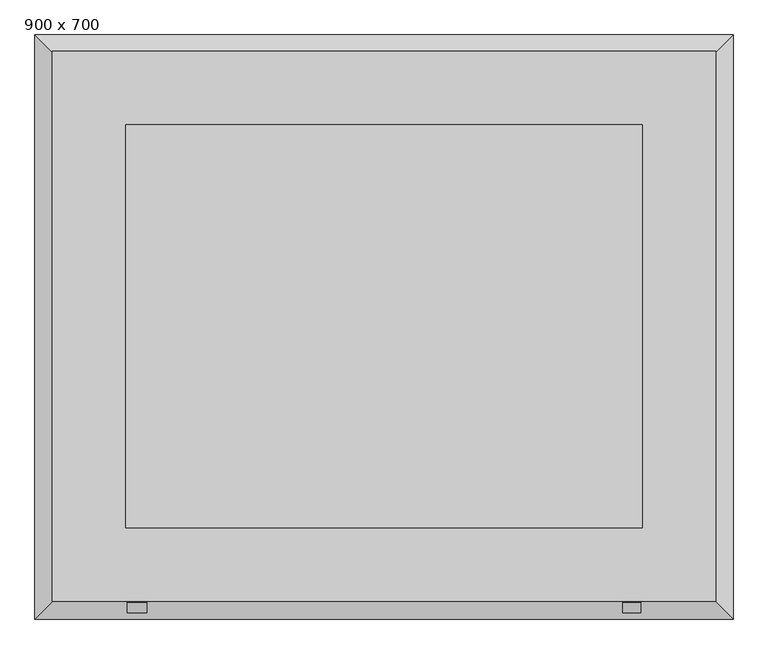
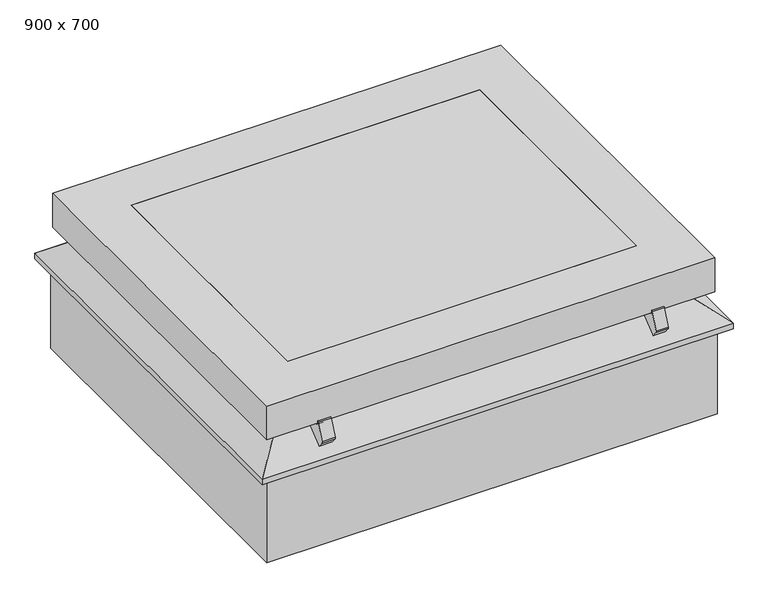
"""IFC4 building model written with IfcOpenShell, lengths in millimetres: proxy geometry, 1_Topaccess_dakluik_900x700_Staka : 900 x 700."""

from ifc_helpers import new_model, si_unit, point, frame, frame_2d, origin, place, context, project, spatial, polyline, circle_curve, trimmed, segment, composite_curve, outline, extrude, faceted_brep, source, transform, mapped, element, save


def proxy_900_x_700_c567ea2a(model_context):
    return source(origin(), model_context, "Body", "SolidModel", [
        extrude(outline(composite_curve([segment(polyline([(-354.3587615, 273.7553144), (-365.8649084, 288.1379982)]), True, "CONTINUOUS"), segment(trimmed(circle_curve(frame_2d((-360.5095045, 292.4223213)), 6.8582634), [point((-365.8649084, 288.1379982))], [point((-367.181926, 294.0080602))], False, "CARTESIAN"), True, "CONTINUOUS"), segment(polyline([(-367.181926, 294.0080602), (-349.9226192, 336.7263436)]), True, "CONTINUOUS"), segment(trimmed(circle_curve(frame_2d((-346.8978032, 335.5042386)), 3.2623692), [point((-349.9226192, 336.7263436))], [point((-344.376303, 333.4341928))], False, "CARTESIAN"), True, "CONTINUOUS"), segment(trimmed(circle_curve(frame_2d((-340.2194123, 331.6704159)), 4.5156006), [point((-344.376303, 333.4341928))], [point((-341.7830923, 327.4341966))], True, "CARTESIAN"), True, "CONTINUOUS"), segment(polyline([(-341.7830923, 327.4341966), (-304.4744431, 313.6627691), (-354.3587615, 273.7553144)]), True, "CONTINUOUS")], self_intersect=False)), frame((-1031.2697623, 0.0, 0.0), z_axis=(1.0, 0.0, 0.0), x_axis=(0.0, 1.0, 0.0)), (0.0, 0.0, 1.0), 33.7628423),
        extrude(outline(composite_curve([segment(polyline([(-354.3587615, 273.7553144), (-365.8649084, 288.1379982)]), True, "CONTINUOUS"), segment(trimmed(circle_curve(frame_2d((-360.5095045, 292.4223213)), 6.8582634), [point((-365.8649084, 288.1379982))], [point((-367.181926, 294.0080602))], False, "CARTESIAN"), True, "CONTINUOUS"), segment(polyline([(-367.181926, 294.0080602), (-349.9226192, 336.7263436)]), True, "CONTINUOUS"), segment(trimmed(circle_curve(frame_2d((-346.8978032, 335.5042386)), 3.2623692), [point((-349.9226192, 336.7263436))], [point((-344.376303, 333.4341928))], False, "CARTESIAN"), True, "CONTINUOUS"), segment(trimmed(circle_curve(frame_2d((-340.2194123, 331.6704159)), 4.5156006), [point((-344.376303, 333.4341928))], [point((-341.7830923, 327.4341966))], True, "CARTESIAN"), True, "CONTINUOUS"), segment(polyline([(-341.7830923, 327.4341966), (-304.4744431, 313.6627691), (-354.3587615, 273.7553144)]), True, "CONTINUOUS")], self_intersect=False)), frame((-162.9219079, 0.0, 0.0), z_axis=(1.0, 0.0, 0.0), x_axis=(0.0, 1.0, 0.0)), (0.0, 0.0, 1.0), 31.6521456),
        faceted_brep([(-61.2697623, 553.4470955, 328.0), (30.7302377, 645.4470955, 254.4), (-1193.2697623, 645.4470955, 254.4), (-1101.2697623, 553.4470955, 328.0), (-105.2697623, 509.4470955, 282.0), (-85.7439208, 528.9729371, 328.0), (-1076.7956039, 528.9729371, 328.0), (-1057.2697623, 509.4470955, 282.0), (-131.2697623, 483.4470955, 0.0), (-131.2697623, 483.4470955, 282.0), (-1031.2697623, 483.4470955, 282.0), (-1031.2697623, 483.4470955, 0.0), (4.7302377, 619.4470955, 240.0), (4.7302377, 619.4470955, 0.0), (-1167.2697623, 619.4470955, 0.0), (-1167.2697623, 619.4470955, 240.0), (30.7302377, 645.4470955, 240.0), (-1193.2697623, 645.4470955, 240.0), (-1193.2697623, -378.5529045, 254.4), (-1101.2697623, -286.5529045, 328.0), (-1076.7956039, -262.078746, 328.0), (-1057.2697623, -242.5529045, 282.0), (-1031.2697623, -216.5529045, 282.0), (-1031.2697623, -216.5529045, 0.0), (-1167.2697623, -352.5529045, 0.0), (-1167.2697623, -352.5529045, 240.0), (-1193.2697623, -378.5529045, 240.0), (30.7302377, -378.5529045, 254.4), (-61.2697623, -286.5529045, 328.0), (-85.7439208, -262.078746, 328.0), (-105.2697623, -242.5529045, 282.0), (-131.2697623, -216.5529045, 282.0), (-131.2697623, -216.5529045, 0.0), (4.7302377, -352.5529045, 0.0), (4.7302377, -352.5529045, 240.0), (30.7302377, -378.5529045, 240.0)], [[[0, 1, 2, 3]], [[4, 5, 6, 7]], [[8, 9, 10, 11]], [[12, 13, 14, 15]], [[1, 16, 17, 2]], [[3, 2, 18, 19]], [[7, 6, 20, 21]], [[11, 10, 22, 23]], [[15, 14, 24, 25]], [[2, 17, 26, 18]], [[19, 18, 27, 28]], [[21, 20, 29, 30]], [[23, 22, 31, 32]], [[25, 24, 33, 34]], [[18, 26, 35, 27]], [[28, 27, 1, 0]], [[3, 19, 28, 0], [5, 29, 20, 6]], [[30, 29, 5, 4]], [[7, 21, 30, 4], [9, 31, 22, 10]], [[32, 31, 9, 8]], [[13, 33, 24, 14], [11, 23, 32, 8]], [[34, 33, 13, 12]], [[16, 35, 26, 17], [15, 25, 34, 12]], [[27, 35, 16, 1]]]),
        extrude(outline(polyline([(-1034.2669339, 487.5846734), (-128.2669339, 487.5846734), (-128.2669339, -218.4153266), (-1034.2669339, -218.4153266), (-1034.2669339, 487.5846734)])), frame((0.0, 0.0, 287.0), z_axis=(0.0, 0.0, 1.0), x_axis=(1.0, 0.0, 0.0)), (0.0, 0.0, 1.0), 139.4),
        faceted_brep([(-128.2669339, 487.5846734, 287.0), (-128.2669339, 487.5846734, 426.4), (-1034.2669339, 487.5846734, 426.4), (-1034.2669339, 487.5846734, 287.0), (-85.2669339, 530.5846734, 333.4), (-102.8669339, 512.9846734, 287.0), (-1059.6669339, 512.9846734, 287.0), (-1077.2669339, 530.5846734, 333.4), (0.7330661, 616.5846734, 426.4), (0.7330661, 616.5846734, 333.4), (-1163.2669339, 616.5846734, 333.4), (-1163.2669339, 616.5846734, 426.4), (-1034.2669339, -218.4153266, 426.4), (-1034.2669339, -218.4153266, 287.0), (-1059.6669339, -243.8153266, 287.0), (-1077.2669339, -261.4153266, 333.4), (-1163.2669339, -347.4153266, 333.4), (-1163.2669339, -347.4153266, 426.4), (-128.2669339, -218.4153266, 426.4), (-128.2669339, -218.4153266, 287.0), (-102.8669339, -243.8153266, 287.0), (-85.2669339, -261.4153266, 333.4), (0.7330661, -347.4153266, 333.4), (0.7330661, -347.4153266, 426.4)], [[[0, 1, 2, 3]], [[4, 5, 6, 7]], [[8, 9, 10, 11]], [[3, 2, 12, 13]], [[7, 6, 14, 15]], [[11, 10, 16, 17]], [[13, 12, 18, 19]], [[15, 14, 20, 21]], [[17, 16, 22, 23]], [[19, 18, 1, 0]], [[5, 20, 14, 6], [3, 13, 19, 0]], [[21, 20, 5, 4]], [[9, 22, 16, 10], [7, 15, 21, 4]], [[23, 22, 9, 8]], [[11, 17, 23, 8], [1, 18, 12, 2]]]),
    ])


if __name__ == "__main__":
    model = new_model("IFC4")
    model_context = context("Model", 3, world=origin())
    ifc_project = project(units=[si_unit("LENGTHUNIT", "METRE", prefix="MILLI")], contexts=[model_context])
    site = spatial("IfcSite", under=ifc_project)
    building = spatial("IfcBuilding", under=site)
    placement = place(None, origin())
    proxy_900_x_700_shape = proxy_900_x_700_c567ea2a(model_context)
    element("IfcBuildingElementProxy", 1, Name="1_Topaccess_dakluik_900x700_Staka : 900 x 700", ObjectType="1_Topaccess_dakluik_900x700_Staka : 900 x 700", at=placement, inside=building, context=model_context, shape_type="MappedRepresentation", body=[
        mapped(proxy_900_x_700_shape, transform((0.0, 0.0, 0.0), x_axis=(1.0, 0.0, 0.0), y_axis=(0.0, 1.0, 0.0), z_axis=(0.0, 0.0, 1.0))),
    ])
    save(model, "model.ifc")
